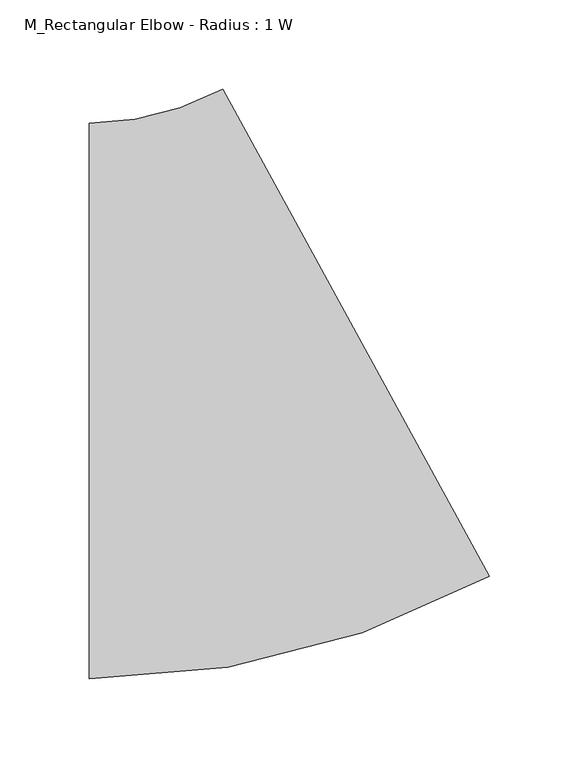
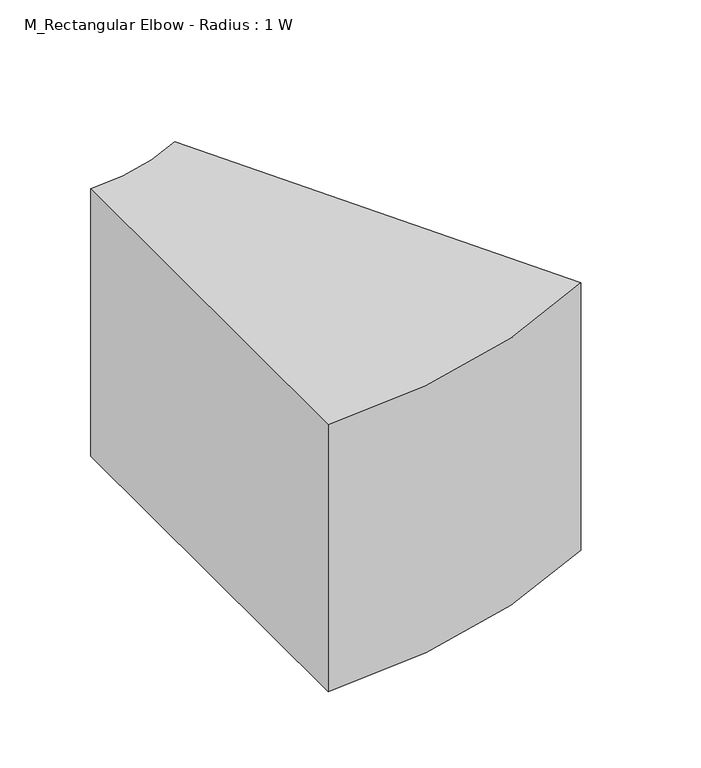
"""IFC4 building model written with IfcOpenShell, lengths in millimetres: duct fitting geometry, M_Rectangular Elbow - Radius : 1 W."""

from ifc_helpers import new_model, si_unit, point, frame, frame_2d, origin, place, context, project, spatial, polyline, circle_curve, trimmed, segment, composite_curve, outline, extrude, source, transform, mapped, element, save


def m_rectangular_elbow_radius_1_w_2ae07335(model_context):
    return source(origin(), model_context, "Body", "SweptSolid", [
        extrude(outline(composite_curve([segment(trimmed(circle_curve(frame_2d((-79.8174308, 311.875)), 467.8125), [point((144.915115, -98.4222313))], [point((-79.8174308, -155.9375))], False, "CARTESIAN"), True, "CONTINUOUS"), segment(polyline([(-79.8174308, -155.9375), (-79.8174308, 155.9375)]), True, "CONTINUOUS"), segment(trimmed(circle_curve(frame_2d((-79.8174308, 311.875)), 155.9375), [point((-79.8174308, 155.9375))], [point((-4.9065822, 175.1092562))], True, "CARTESIAN"), True, "CONTINUOUS"), segment(polyline([(-4.9065822, 175.1092562), (144.915115, -98.4222313)]), True, "CONTINUOUS")], self_intersect=False)), frame((0.0, 0.0, -107.1375), z_axis=(0.0, 0.0, 1.0), x_axis=(1.0, 0.0, 0.0)), (0.0, 0.0, 1.0), 214.275),
    ])


if __name__ == "__main__":
    model = new_model("IFC4")
    model_context = context("Model", 3, world=origin())
    ifc_project = project(units=[si_unit("LENGTHUNIT", "METRE", prefix="MILLI")], contexts=[model_context])
    site = spatial("IfcSite", under=ifc_project)
    building = spatial("IfcBuilding", under=site)
    placement = place(None, origin())
    m_rectangular_elbow_radius_1_w_shape = m_rectangular_elbow_radius_1_w_2ae07335(model_context)
    element("IfcDuctFitting", 1, ObjectType="M_Rectangular Elbow - Radius : 1 W", at=placement, inside=building, context=model_context, shape_type="MappedRepresentation", body=[
        mapped(m_rectangular_elbow_radius_1_w_shape, transform((0.0, 0.0, 0.0), x_axis=(1.0, 0.0, 0.0), y_axis=(0.0, 1.0, 0.0), z_axis=(0.0, 0.0, 1.0))),
    ])
    save(model, "model.ifc")
